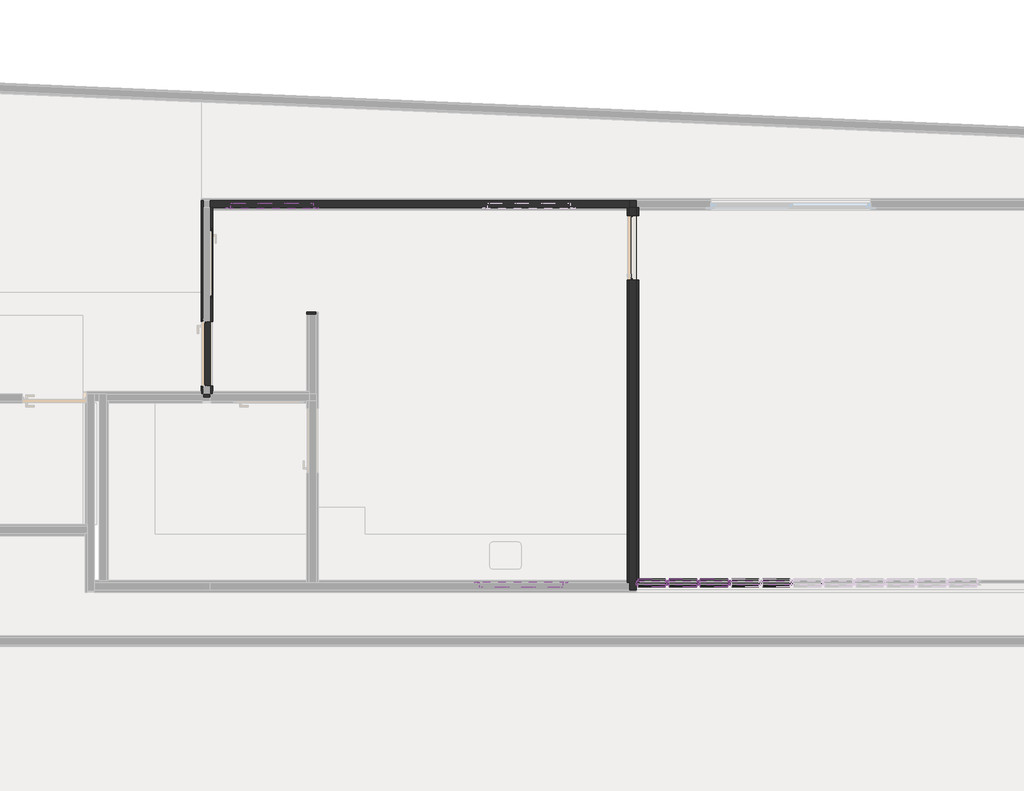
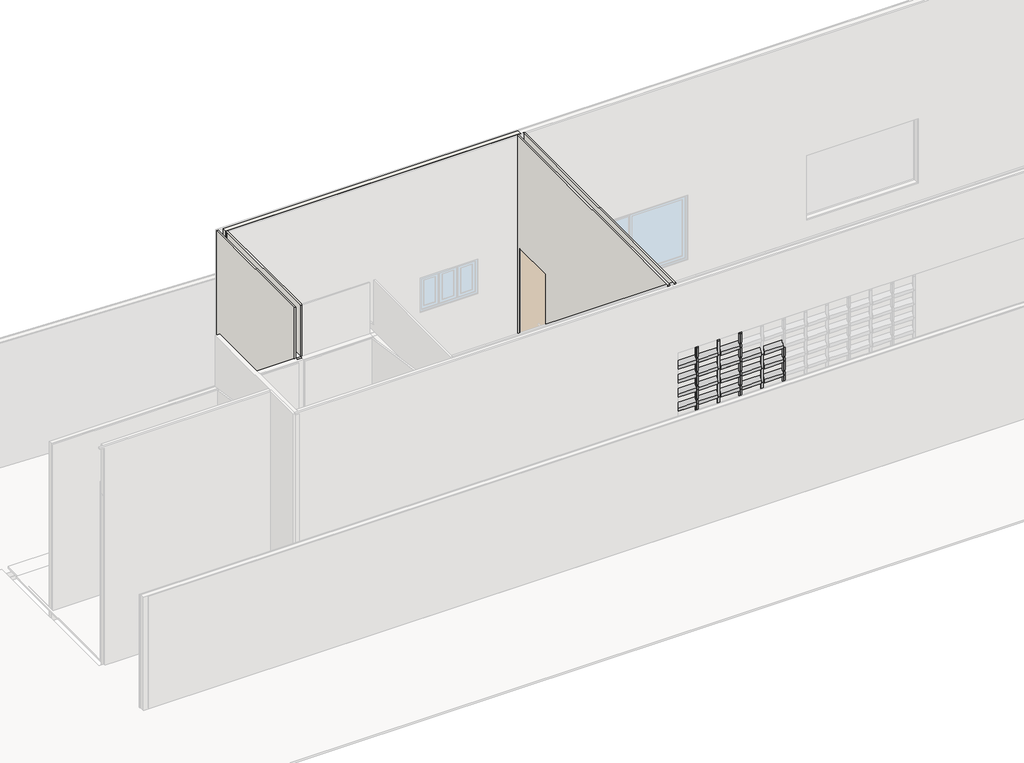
# One storey, part 21 of 28: 97 members, 9 walls, 2 windows.
"""IFC4 building model written with IfcOpenShell, lengths in millimetres."""

from ifc_helpers import new_model, si_unit, origin, place, context, project, spatial, faceted_brep, transform, mapped, element, save
from components import montante_retangular_02d07947, montante_retangular_70ba8f4d, montante_retangular_b3938234, montante_retangular_d2e0df8b, montante_retangular_ace9eee9, montante_retangular_c959cb71, montante_retangular_79dc672e, montante_retangular_289212d8, montante_retangular_16e63d6c, window_1x60_2e2a47e2

model = new_model("IFC4")

# Units and contexts
model_context = context("Model", 3, world=origin())
ifc_project = project(units=[si_unit("LENGTHUNIT", "METRE", prefix="MILLI")], contexts=[model_context])

# Site, building, storey
site = spatial("IfcSite", under=ifc_project)
building = spatial("IfcBuilding", under=site)
storey = spatial("IfcBuildingStorey", under=building, Name="Térreo", Elevation=0.0)

# Members
placement = place(None, origin())
montante_retangular_shape = montante_retangular_02d07947(model_context)
element("IfcMember", 1, ObjectType="Montante retangular : FDE_MontanteVenezianaIndustrial_Intermediário_Ref50 (Alumínio Anodizado)", at=placement, inside=storey, context=model_context, shape_type="MappedRepresentation", body=[
    mapped(montante_retangular_shape, transform((-44847.1052629, 48589.0879102, 925.0), x_axis=(1.0, 0.0, 0.0), y_axis=(0.0, -1.0, 0.0), z_axis=(0.0, 0.0, -1.0))),
])
element("IfcMember", 2, ObjectType="Montante retangular : FDE_MontanteVenezianaIndustrial_Intermediário_Ref50 (Alumínio Anodizado)", at=placement, inside=storey, context=model_context, shape_type="MappedRepresentation", body=[
    mapped(montante_retangular_shape, transform((-44444.2105261, 48589.0879102, 925.0), x_axis=(1.0, 0.0, 0.0), y_axis=(0.0, -1.0, 0.0), z_axis=(0.0, 0.0, -1.0))),
])
element("IfcMember", 3, ObjectType="Montante retangular : FDE_MontanteVenezianaIndustrial_Intermediário_Ref50 (Alumínio Anodizado)", at=placement, inside=storey, context=model_context, shape_type="MappedRepresentation", body=[
    mapped(montante_retangular_shape, transform((-44041.3157893, 48589.0879102, 925.0), x_axis=(1.0, 0.0, 0.0), y_axis=(0.0, -1.0, 0.0), z_axis=(0.0, 0.0, -1.0))),
])
element("IfcMember", 4, ObjectType="Montante retangular : FDE_MontanteVenezianaIndustrial_Intermediário_Ref50 (Alumínio Anodizado)", at=placement, inside=storey, context=model_context, shape_type="MappedRepresentation", body=[
    mapped(montante_retangular_shape, transform((-43638.4210525, 48589.0879102, 925.0), x_axis=(1.0, 0.0, 0.0), y_axis=(0.0, -1.0, 0.0), z_axis=(0.0, 0.0, -1.0))),
])
element("IfcMember", 5, ObjectType="Montante retangular : FDE_MontanteVenezianaIndustrial_Intermediário_Ref50 (Alumínio Anodizado)", at=placement, inside=storey, context=model_context, shape_type="MappedRepresentation", body=[
    mapped(montante_retangular_shape, transform((-43235.5263156, 48589.0879102, 925.0), x_axis=(1.0, 0.0, 0.0), y_axis=(0.0, -1.0, 0.0), z_axis=(0.0, 0.0, -1.0))),
])
montante_retangular_2_shape = montante_retangular_70ba8f4d(model_context)
element("IfcMember", 6, ObjectType="Montante retangular : FDE_MontanteVenezianaIndustrial_Intermediário_Ref50 (Alumínio Anodizado)", at=placement, inside=storey, context=model_context, shape_type="MappedRepresentation", body=[
    mapped(montante_retangular_2_shape, transform((-44847.1052629, 48589.0879102, 1174.0), x_axis=(1.0, 0.0, 0.0), y_axis=(0.0, -1.0, 0.0), z_axis=(0.0, 0.0, -1.0))),
])
element("IfcMember", 7, ObjectType="Montante retangular : FDE_MontanteVenezianaIndustrial_Intermediário_Ref50 (Alumínio Anodizado)", at=placement, inside=storey, context=model_context, shape_type="MappedRepresentation", body=[
    mapped(montante_retangular_2_shape, transform((-44444.2105261, 48589.0879102, 1174.0), x_axis=(1.0, 0.0, 0.0), y_axis=(0.0, -1.0, 0.0), z_axis=(0.0, 0.0, -1.0))),
])
element("IfcMember", 8, ObjectType="Montante retangular : FDE_MontanteVenezianaIndustrial_Intermediário_Ref50 (Alumínio Anodizado)", at=placement, inside=storey, context=model_context, shape_type="MappedRepresentation", body=[
    mapped(montante_retangular_2_shape, transform((-44041.3157893, 48589.0879102, 1174.0), x_axis=(1.0, 0.0, 0.0), y_axis=(0.0, -1.0, 0.0), z_axis=(0.0, 0.0, -1.0))),
])
element("IfcMember", 9, ObjectType="Montante retangular : FDE_MontanteVenezianaIndustrial_Intermediário_Ref50 (Alumínio Anodizado)", at=placement, inside=storey, context=model_context, shape_type="MappedRepresentation", body=[
    mapped(montante_retangular_2_shape, transform((-43638.4210525, 48589.0879102, 1174.0), x_axis=(1.0, 0.0, 0.0), y_axis=(0.0, -1.0, 0.0), z_axis=(0.0, 0.0, -1.0))),
])
element("IfcMember", 10, ObjectType="Montante retangular : FDE_MontanteVenezianaIndustrial_Intermediário_Ref50 (Alumínio Anodizado)", at=placement, inside=storey, context=model_context, shape_type="MappedRepresentation", body=[
    mapped(montante_retangular_2_shape, transform((-43235.5263156, 48589.0879102, 1174.0), x_axis=(1.0, 0.0, 0.0), y_axis=(0.0, -1.0, 0.0), z_axis=(0.0, 0.0, -1.0))),
])
element("IfcMember", 11, ObjectType="Montante retangular : FDE_MontanteVenezianaIndustrial_Intermediário_Ref50 (Alumínio Anodizado)", at=placement, inside=storey, context=model_context, shape_type="MappedRepresentation", body=[
    mapped(montante_retangular_2_shape, transform((-44847.1052629, 48589.0879102, 1448.0), x_axis=(1.0, 0.0, 0.0), y_axis=(0.0, -1.0, 0.0), z_axis=(0.0, 0.0, -1.0))),
])
element("IfcMember", 12, ObjectType="Montante retangular : FDE_MontanteVenezianaIndustrial_Intermediário_Ref50 (Alumínio Anodizado)", at=placement, inside=storey, context=model_context, shape_type="MappedRepresentation", body=[
    mapped(montante_retangular_2_shape, transform((-44444.2105261, 48589.0879102, 1448.0), x_axis=(1.0, 0.0, 0.0), y_axis=(0.0, -1.0, 0.0), z_axis=(0.0, 0.0, -1.0))),
])
element("IfcMember", 13, ObjectType="Montante retangular : FDE_MontanteVenezianaIndustrial_Intermediário_Ref50 (Alumínio Anodizado)", at=placement, inside=storey, context=model_context, shape_type="MappedRepresentation", body=[
    mapped(montante_retangular_2_shape, transform((-44041.3157893, 48589.0879102, 1448.0), x_axis=(1.0, 0.0, 0.0), y_axis=(0.0, -1.0, 0.0), z_axis=(0.0, 0.0, -1.0))),
])
element("IfcMember", 14, ObjectType="Montante retangular : FDE_MontanteVenezianaIndustrial_Intermediário_Ref50 (Alumínio Anodizado)", at=placement, inside=storey, context=model_context, shape_type="MappedRepresentation", body=[
    mapped(montante_retangular_2_shape, transform((-43638.4210525, 48589.0879102, 1448.0), x_axis=(1.0, 0.0, 0.0), y_axis=(0.0, -1.0, 0.0), z_axis=(0.0, 0.0, -1.0))),
])
element("IfcMember", 15, ObjectType="Montante retangular : FDE_MontanteVenezianaIndustrial_Intermediário_Ref50 (Alumínio Anodizado)", at=placement, inside=storey, context=model_context, shape_type="MappedRepresentation", body=[
    mapped(montante_retangular_2_shape, transform((-43235.5263156, 48589.0879102, 1448.0), x_axis=(1.0, 0.0, 0.0), y_axis=(0.0, -1.0, 0.0), z_axis=(0.0, 0.0, -1.0))),
])
element("IfcMember", 16, ObjectType="Montante retangular : FDE_MontanteVenezianaIndustrial_Intermediário_Ref50 (Alumínio Anodizado)", at=placement, inside=storey, context=model_context, shape_type="MappedRepresentation", body=[
    mapped(montante_retangular_2_shape, transform((-44847.1052629, 48589.0879102, 1722.0), x_axis=(1.0, 0.0, 0.0), y_axis=(0.0, -1.0, 0.0), z_axis=(0.0, 0.0, -1.0))),
])
element("IfcMember", 17, ObjectType="Montante retangular : FDE_MontanteVenezianaIndustrial_Intermediário_Ref50 (Alumínio Anodizado)", at=placement, inside=storey, context=model_context, shape_type="MappedRepresentation", body=[
    mapped(montante_retangular_2_shape, transform((-44444.2105261, 48589.0879102, 1722.0), x_axis=(1.0, 0.0, 0.0), y_axis=(0.0, -1.0, 0.0), z_axis=(0.0, 0.0, -1.0))),
])
element("IfcMember", 18, ObjectType="Montante retangular : FDE_MontanteVenezianaIndustrial_Intermediário_Ref50 (Alumínio Anodizado)", at=placement, inside=storey, context=model_context, shape_type="MappedRepresentation", body=[
    mapped(montante_retangular_2_shape, transform((-44041.3157893, 48589.0879102, 1722.0), x_axis=(1.0, 0.0, 0.0), y_axis=(0.0, -1.0, 0.0), z_axis=(0.0, 0.0, -1.0))),
])
element("IfcMember", 19, ObjectType="Montante retangular : FDE_MontanteVenezianaIndustrial_Intermediário_Ref50 (Alumínio Anodizado)", at=placement, inside=storey, context=model_context, shape_type="MappedRepresentation", body=[
    mapped(montante_retangular_2_shape, transform((-43638.4210525, 48589.0879102, 1722.0), x_axis=(1.0, 0.0, 0.0), y_axis=(0.0, -1.0, 0.0), z_axis=(0.0, 0.0, -1.0))),
])
element("IfcMember", 20, ObjectType="Montante retangular : FDE_MontanteVenezianaIndustrial_Intermediário_Ref50 (Alumínio Anodizado)", at=placement, inside=storey, context=model_context, shape_type="MappedRepresentation", body=[
    mapped(montante_retangular_2_shape, transform((-43235.5263156, 48589.0879102, 1722.0), x_axis=(1.0, 0.0, 0.0), y_axis=(0.0, -1.0, 0.0), z_axis=(0.0, 0.0, -1.0))),
])
element("IfcMember", 21, ObjectType="Montante retangular : FDE_MontanteVenezianaIndustrial_Intermediário_Ref50 (Alumínio Anodizado)", at=placement, inside=storey, context=model_context, shape_type="MappedRepresentation", body=[
    mapped(montante_retangular_2_shape, transform((-44847.1052629, 48589.0879102, 1996.0), x_axis=(1.0, 0.0, 0.0), y_axis=(0.0, -1.0, 0.0), z_axis=(0.0, 0.0, -1.0))),
])
element("IfcMember", 22, ObjectType="Montante retangular : FDE_MontanteVenezianaIndustrial_Intermediário_Ref50 (Alumínio Anodizado)", at=placement, inside=storey, context=model_context, shape_type="MappedRepresentation", body=[
    mapped(montante_retangular_2_shape, transform((-44444.2105261, 48589.0879102, 1996.0), x_axis=(1.0, 0.0, 0.0), y_axis=(0.0, -1.0, 0.0), z_axis=(0.0, 0.0, -1.0))),
])
element("IfcMember", 23, ObjectType="Montante retangular : FDE_MontanteVenezianaIndustrial_Intermediário_Ref50 (Alumínio Anodizado)", at=placement, inside=storey, context=model_context, shape_type="MappedRepresentation", body=[
    mapped(montante_retangular_2_shape, transform((-44041.3157893, 48589.0879102, 1996.0), x_axis=(1.0, 0.0, 0.0), y_axis=(0.0, -1.0, 0.0), z_axis=(0.0, 0.0, -1.0))),
])
element("IfcMember", 24, ObjectType="Montante retangular : FDE_MontanteVenezianaIndustrial_Intermediário_Ref50 (Alumínio Anodizado)", at=placement, inside=storey, context=model_context, shape_type="MappedRepresentation", body=[
    mapped(montante_retangular_2_shape, transform((-43638.4210525, 48589.0879102, 1996.0), x_axis=(1.0, 0.0, 0.0), y_axis=(0.0, -1.0, 0.0), z_axis=(0.0, 0.0, -1.0))),
])
element("IfcMember", 25, ObjectType="Montante retangular : FDE_MontanteVenezianaIndustrial_Intermediário_Ref50 (Alumínio Anodizado)", at=placement, inside=storey, context=model_context, shape_type="MappedRepresentation", body=[
    mapped(montante_retangular_2_shape, transform((-43235.5263156, 48589.0879102, 1996.0), x_axis=(1.0, 0.0, 0.0), y_axis=(0.0, -1.0, 0.0), z_axis=(0.0, 0.0, -1.0))),
])
element("IfcMember", 26, ObjectType="Montante retangular : FDE_MontanteVenezianaIndustrial_Intermediário_Ref50 (Alumínio Anodizado)", at=placement, inside=storey, context=model_context, shape_type="MappedRepresentation", body=[
    mapped(montante_retangular_2_shape, transform((-44847.1052629, 48589.0879102, 2270.0), x_axis=(1.0, 0.0, 0.0), y_axis=(0.0, -1.0, 0.0), z_axis=(0.0, 0.0, -1.0))),
])
element("IfcMember", 27, ObjectType="Montante retangular : FDE_MontanteVenezianaIndustrial_Intermediário_Ref50 (Alumínio Anodizado)", at=placement, inside=storey, context=model_context, shape_type="MappedRepresentation", body=[
    mapped(montante_retangular_2_shape, transform((-44444.2105261, 48589.0879102, 2270.0), x_axis=(1.0, 0.0, 0.0), y_axis=(0.0, -1.0, 0.0), z_axis=(0.0, 0.0, -1.0))),
])
element("IfcMember", 28, ObjectType="Montante retangular : FDE_MontanteVenezianaIndustrial_Intermediário_Ref50 (Alumínio Anodizado)", at=placement, inside=storey, context=model_context, shape_type="MappedRepresentation", body=[
    mapped(montante_retangular_2_shape, transform((-44041.3157893, 48589.0879102, 2270.0), x_axis=(1.0, 0.0, 0.0), y_axis=(0.0, -1.0, 0.0), z_axis=(0.0, 0.0, -1.0))),
])
element("IfcMember", 29, ObjectType="Montante retangular : FDE_MontanteVenezianaIndustrial_Intermediário_Ref50 (Alumínio Anodizado)", at=placement, inside=storey, context=model_context, shape_type="MappedRepresentation", body=[
    mapped(montante_retangular_2_shape, transform((-43638.4210525, 48589.0879102, 2270.0), x_axis=(1.0, 0.0, 0.0), y_axis=(0.0, -1.0, 0.0), z_axis=(0.0, 0.0, -1.0))),
])
element("IfcMember", 30, ObjectType="Montante retangular : FDE_MontanteVenezianaIndustrial_Intermediário_Ref50 (Alumínio Anodizado)", at=placement, inside=storey, context=model_context, shape_type="MappedRepresentation", body=[
    mapped(montante_retangular_2_shape, transform((-43235.5263156, 48589.0879102, 2270.0), x_axis=(1.0, 0.0, 0.0), y_axis=(0.0, -1.0, 0.0), z_axis=(0.0, 0.0, -1.0))),
])
element("IfcMember", 31, ObjectType="Montante retangular : FDE_MontanteVenezianaIndustrial_Intermediário_Ref50 (Alumínio Anodizado)", at=placement, inside=storey, context=model_context, shape_type="MappedRepresentation", body=[
    mapped(montante_retangular_2_shape, transform((-44847.1052629, 48589.0879102, 2544.0), x_axis=(1.0, 0.0, 0.0), y_axis=(0.0, -1.0, 0.0), z_axis=(0.0, 0.0, -1.0))),
])
element("IfcMember", 32, ObjectType="Montante retangular : FDE_MontanteVenezianaIndustrial_Intermediário_Ref50 (Alumínio Anodizado)", at=placement, inside=storey, context=model_context, shape_type="MappedRepresentation", body=[
    mapped(montante_retangular_2_shape, transform((-44444.2105261, 48589.0879102, 2544.0), x_axis=(1.0, 0.0, 0.0), y_axis=(0.0, -1.0, 0.0), z_axis=(0.0, 0.0, -1.0))),
])
element("IfcMember", 33, ObjectType="Montante retangular : FDE_MontanteVenezianaIndustrial_Intermediário_Ref50 (Alumínio Anodizado)", at=placement, inside=storey, context=model_context, shape_type="MappedRepresentation", body=[
    mapped(montante_retangular_2_shape, transform((-44041.3157893, 48589.0879102, 2544.0), x_axis=(1.0, 0.0, 0.0), y_axis=(0.0, -1.0, 0.0), z_axis=(0.0, 0.0, -1.0))),
])
element("IfcMember", 34, ObjectType="Montante retangular : FDE_MontanteVenezianaIndustrial_Intermediário_Ref50 (Alumínio Anodizado)", at=placement, inside=storey, context=model_context, shape_type="MappedRepresentation", body=[
    mapped(montante_retangular_2_shape, transform((-44847.1052629, 48589.0879102, 2818.0), x_axis=(1.0, 0.0, 0.0), y_axis=(0.0, -1.0, 0.0), z_axis=(0.0, 0.0, -1.0))),
])
element("IfcMember", 35, ObjectType="Montante retangular : FDE_MontanteVenezianaIndustrial_Intermediário_Ref50 (Alumínio Anodizado)", at=placement, inside=storey, context=model_context, shape_type="MappedRepresentation", body=[
    mapped(montante_retangular_2_shape, transform((-44444.2105261, 48589.0879102, 2818.0), x_axis=(1.0, 0.0, 0.0), y_axis=(0.0, -1.0, 0.0), z_axis=(0.0, 0.0, -1.0))),
])
element("IfcMember", 36, ObjectType="Montante retangular : FDE_MontanteVenezianaIndustrial_Intermediário_Ref50 (Alumínio Anodizado)", at=placement, inside=storey, context=model_context, shape_type="MappedRepresentation", body=[
    mapped(montante_retangular_2_shape, transform((-44041.3157893, 48589.0879102, 2818.0), x_axis=(1.0, 0.0, 0.0), y_axis=(0.0, -1.0, 0.0), z_axis=(0.0, 0.0, -1.0))),
])
montante_retangular_3_shape = montante_retangular_b3938234(model_context)
element("IfcMember", 37, ObjectType="Montante retangular : FDE_MontanteVenezianaIndustrial_BordaOpção1_Ref50 (Alumínio Anodizado)", at=placement, inside=storey, context=model_context, shape_type="MappedRepresentation", body=[
    mapped(montante_retangular_3_shape, transform((-45250.0, 48589.0879102, 1174.0), x_axis=(-1.0, 0.0, 0.0), y_axis=(0.0, -1.0, 0.0), z_axis=(0.0, 0.0, 1.0))),
])
montante_retangular_4_shape = montante_retangular_d2e0df8b(model_context)
element("IfcMember", 38, ObjectType="Montante retangular : FDE_MontanteVenezianaIndustrial_BordaOpção1_Ref50 (Alumínio Anodizado)", at=placement, inside=storey, context=model_context, shape_type="MappedRepresentation", body=[
    mapped(montante_retangular_4_shape, transform((-45250.0, 48589.0879102, 1448.0), x_axis=(-1.0, 0.0, 0.0), y_axis=(0.0, -1.0, 0.0), z_axis=(0.0, 0.0, 1.0))),
])
element("IfcMember", 39, ObjectType="Montante retangular : FDE_MontanteVenezianaIndustrial_BordaOpção1_Ref50 (Alumínio Anodizado)", at=placement, inside=storey, context=model_context, shape_type="MappedRepresentation", body=[
    mapped(montante_retangular_4_shape, transform((-45250.0, 48589.0879102, 1722.0), x_axis=(-1.0, 0.0, 0.0), y_axis=(0.0, -1.0, 0.0), z_axis=(0.0, 0.0, 1.0))),
])
element("IfcMember", 40, ObjectType="Montante retangular : FDE_MontanteVenezianaIndustrial_BordaOpção1_Ref50 (Alumínio Anodizado)", at=placement, inside=storey, context=model_context, shape_type="MappedRepresentation", body=[
    mapped(montante_retangular_4_shape, transform((-45250.0, 48589.0879102, 1996.0), x_axis=(-1.0, 0.0, 0.0), y_axis=(0.0, -1.0, 0.0), z_axis=(0.0, 0.0, 1.0))),
])
element("IfcMember", 41, ObjectType="Montante retangular : FDE_MontanteVenezianaIndustrial_BordaOpção1_Ref50 (Alumínio Anodizado)", at=placement, inside=storey, context=model_context, shape_type="MappedRepresentation", body=[
    mapped(montante_retangular_4_shape, transform((-45250.0, 48589.0879102, 2270.0), x_axis=(-1.0, 0.0, 0.0), y_axis=(0.0, -1.0, 0.0), z_axis=(0.0, 0.0, 1.0))),
])
element("IfcMember", 42, ObjectType="Montante retangular : FDE_MontanteVenezianaIndustrial_BordaOpção1_Ref50 (Alumínio Anodizado)", at=placement, inside=storey, context=model_context, shape_type="MappedRepresentation", body=[
    mapped(montante_retangular_4_shape, transform((-45250.0, 48589.0879102, 2544.0), x_axis=(-1.0, 0.0, 0.0), y_axis=(0.0, -1.0, 0.0), z_axis=(0.0, 0.0, 1.0))),
])
element("IfcMember", 43, ObjectType="Montante retangular : FDE_MontanteVenezianaIndustrial_BordaOpção1_Ref50 (Alumínio Anodizado)", at=placement, inside=storey, context=model_context, shape_type="MappedRepresentation", body=[
    mapped(montante_retangular_4_shape, transform((-45250.0, 48589.0879102, 2818.0), x_axis=(-1.0, 0.0, 0.0), y_axis=(0.0, -1.0, 0.0), z_axis=(0.0, 0.0, 1.0))),
])
element("IfcMember", 44, ObjectType="Montante retangular : FDE_MontanteVenezianaIndustrial_BordaOpção1_Ref50 (Alumínio Anodizado)", at=placement, inside=storey, context=model_context, shape_type="MappedRepresentation", body=[
    mapped(montante_retangular_4_shape, transform((-45250.0, 48589.0879102, 3092.0), x_axis=(-1.0, 0.0, 0.0), y_axis=(0.0, -1.0, 0.0), z_axis=(0.0, 0.0, 1.0))),
])
montante_retangular_5_shape = montante_retangular_ace9eee9(model_context)
element("IfcMember", 45, ObjectType="Montante retangular : FDE_MontanteVenezianaIndustrial_Intermediário_Ref50 (Alumínio Anodizado)", at=placement, inside=storey, context=model_context, shape_type="MappedRepresentation", body=[
    mapped(montante_retangular_5_shape, transform((-44847.1052629, 48589.0879102, 3092.0), x_axis=(1.0, 0.0, 0.0), y_axis=(0.0, -1.0, 0.0), z_axis=(0.0, 0.0, -1.0))),
])
element("IfcMember", 46, ObjectType="Montante retangular : FDE_MontanteVenezianaIndustrial_Intermediário_Ref50 (Alumínio Anodizado)", at=placement, inside=storey, context=model_context, shape_type="MappedRepresentation", body=[
    mapped(montante_retangular_5_shape, transform((-44444.2105261, 48589.0879102, 3092.0), x_axis=(1.0, 0.0, 0.0), y_axis=(0.0, -1.0, 0.0), z_axis=(0.0, 0.0, -1.0))),
])
element("IfcMember", 47, ObjectType="Montante retangular : FDE_MontanteVenezianaIndustrial_Intermediário_Ref50 (Alumínio Anodizado)", at=placement, inside=storey, context=model_context, shape_type="MappedRepresentation", body=[
    mapped(montante_retangular_5_shape, transform((-44041.3157893, 48589.0879102, 3092.0), x_axis=(1.0, 0.0, 0.0), y_axis=(0.0, -1.0, 0.0), z_axis=(0.0, 0.0, -1.0))),
])
montante_retangular_6_shape = montante_retangular_c959cb71(model_context)
element("IfcMember", 48, ObjectType="Montante retangular : FDE_MontanteVenezianaIndustrial_BordaOpção1_Ref50 (Alumínio Anodizado)", at=placement, inside=storey, context=model_context, shape_type="MappedRepresentation", body=[
    mapped(montante_retangular_6_shape, transform((-45250.0, 48589.0879102, 3175.0), x_axis=(-1.0, 0.0, 0.0), y_axis=(0.0, -1.0, 0.0), z_axis=(0.0, 0.0, 1.0))),
])
montante_retangular_7_shape = montante_retangular_79dc672e(model_context)
element("IfcMember", 49, ObjectType="Montante retangular : FDE_MontanteVenezianaIndustrial_BordaOpção2_Ref50 (Alumínio Anodizado)", at=placement, inside=storey, context=model_context, shape_type="MappedRepresentation", body=[
    mapped(montante_retangular_7_shape, transform((-44847.1052629, 48589.0879102, 3200.0), x_axis=(0.0, 0.0, 1.0), y_axis=(0.0, -1.0, 0.0), z_axis=(1.0, 0.0, 0.0))),
])
montante_retangular_8_shape = montante_retangular_289212d8(model_context)
element("IfcMember", 50, ObjectType="Montante retangular : FDE_MontanteVenezianaIndustrial_BordaOpção2_Ref50 (Alumínio Anodizado)", at=placement, inside=storey, context=model_context, shape_type="MappedRepresentation", body=[
    mapped(montante_retangular_8_shape, transform((-44444.2105261, 48589.0879102, 3200.0), x_axis=(0.0, 0.0, 1.0), y_axis=(0.0, -1.0, 0.0), z_axis=(1.0, 0.0, 0.0))),
])
element("IfcMember", 51, ObjectType="Montante retangular : FDE_MontanteVenezianaIndustrial_BordaOpção2_Ref50 (Alumínio Anodizado)", at=placement, inside=storey, context=model_context, shape_type="MappedRepresentation", body=[
    mapped(montante_retangular_8_shape, transform((-44041.3157893, 48589.0879102, 3200.0), x_axis=(0.0, 0.0, 1.0), y_axis=(0.0, -1.0, 0.0), z_axis=(1.0, 0.0, 0.0))),
])
element("IfcMember", 52, ObjectType="Montante retangular : FDE_MontanteVenezianaIndustrial_BordaOpção2_Ref50 (Alumínio Anodizado)", at=placement, inside=storey, context=model_context, shape_type="MappedRepresentation", body=[
    mapped(montante_retangular_8_shape, transform((-43638.4210525, 48589.0879102, 3200.0), x_axis=(0.0, 0.0, 1.0), y_axis=(0.0, -1.0, 0.0), z_axis=(1.0, 0.0, 0.0))),
])
element("IfcMember", 53, ObjectType="Montante retangular : FDE_MontanteVenezianaIndustrial_BordaOpção2_Ref50 (Alumínio Anodizado)", at=placement, inside=storey, context=model_context, shape_type="MappedRepresentation", body=[
    mapped(montante_retangular_8_shape, transform((-43235.5263156, 48589.0879102, 3200.0), x_axis=(0.0, 0.0, 1.0), y_axis=(0.0, -1.0, 0.0), z_axis=(1.0, 0.0, 0.0))),
])
element("IfcMember", 54, ObjectType="Montante retangular : FDE_MontanteVenezianaIndustrial_BordaOpção1_Ref50 (Alumínio Anodizado)", at=placement, inside=storey, context=model_context, shape_type="MappedRepresentation", body=[
    mapped(montante_retangular_7_shape, transform((-45250.0, 48589.0879102, 900.0), x_axis=(0.0, 0.0, -1.0), y_axis=(0.0, -1.0, 0.0), z_axis=(-1.0, 0.0, 0.0))),
])
element("IfcMember", 55, ObjectType="Montante retangular : FDE_MontanteVenezianaIndustrial_BordaOpção1_Ref50 (Alumínio Anodizado)", at=placement, inside=storey, context=model_context, shape_type="MappedRepresentation", body=[
    mapped(montante_retangular_8_shape, transform((-44847.1052629, 48589.0879102, 900.0), x_axis=(0.0, 0.0, -1.0), y_axis=(0.0, -1.0, 0.0), z_axis=(-1.0, 0.0, 0.0))),
])
element("IfcMember", 56, ObjectType="Montante retangular : FDE_MontanteVenezianaIndustrial_BordaOpção1_Ref50 (Alumínio Anodizado)", at=placement, inside=storey, context=model_context, shape_type="MappedRepresentation", body=[
    mapped(montante_retangular_8_shape, transform((-44444.2105261, 48589.0879102, 900.0), x_axis=(0.0, 0.0, -1.0), y_axis=(0.0, -1.0, 0.0), z_axis=(-1.0, 0.0, 0.0))),
])
element("IfcMember", 57, ObjectType="Montante retangular : FDE_MontanteVenezianaIndustrial_BordaOpção1_Ref50 (Alumínio Anodizado)", at=placement, inside=storey, context=model_context, shape_type="MappedRepresentation", body=[
    mapped(montante_retangular_8_shape, transform((-44041.3157893, 48589.0879102, 900.0), x_axis=(0.0, 0.0, -1.0), y_axis=(0.0, -1.0, 0.0), z_axis=(-1.0, 0.0, 0.0))),
])
element("IfcMember", 58, ObjectType="Montante retangular : FDE_MontanteVenezianaIndustrial_BordaOpção1_Ref50 (Alumínio Anodizado)", at=placement, inside=storey, context=model_context, shape_type="MappedRepresentation", body=[
    mapped(montante_retangular_8_shape, transform((-43638.4210525, 48589.0879102, 900.0), x_axis=(0.0, 0.0, -1.0), y_axis=(0.0, -1.0, 0.0), z_axis=(-1.0, 0.0, 0.0))),
])
element("IfcMember", 59, ObjectType="Montante retangular : FDE_MontanteVenezianaIndustrial_BordaOpção1_Ref50 (Alumínio Anodizado)", at=placement, inside=storey, context=model_context, shape_type="MappedRepresentation", body=[
    mapped(montante_retangular_8_shape, transform((-43235.5263156, 48589.0879102, 900.0), x_axis=(0.0, 0.0, -1.0), y_axis=(0.0, -1.0, 0.0), z_axis=(-1.0, 0.0, 0.0))),
])
montante_retangular_9_shape = montante_retangular_16e63d6c(model_context)
element("IfcMember", 60, ObjectType="Montante retangular : FDE_AletaVenezianaIndustrial_Ref100 (Alumínio Anodizado)", at=placement, inside=storey, context=model_context, shape_type="MappedRepresentation", body=[
    mapped(montante_retangular_9_shape, transform((-44872.1052629, 48589.0879102, 1174.0), x_axis=(0.0, 0.0, 1.0), y_axis=(0.0, -1.0, 0.0), z_axis=(1.0, 0.0, 0.0))),
])
element("IfcMember", 61, ObjectType="Montante retangular : FDE_AletaVenezianaIndustrial_Ref100 (Alumínio Anodizado)", at=placement, inside=storey, context=model_context, shape_type="MappedRepresentation", body=[
    mapped(montante_retangular_9_shape, transform((-44469.2105261, 48589.0879102, 1174.0), x_axis=(0.0, 0.0, 1.0), y_axis=(0.0, -1.0, 0.0), z_axis=(1.0, 0.0, 0.0))),
])
element("IfcMember", 62, ObjectType="Montante retangular : FDE_AletaVenezianaIndustrial_Ref100 (Alumínio Anodizado)", at=placement, inside=storey, context=model_context, shape_type="MappedRepresentation", body=[
    mapped(montante_retangular_9_shape, transform((-44066.3157893, 48589.0879102, 1174.0), x_axis=(0.0, 0.0, 1.0), y_axis=(0.0, -1.0, 0.0), z_axis=(1.0, 0.0, 0.0))),
])
element("IfcMember", 63, ObjectType="Montante retangular : FDE_AletaVenezianaIndustrial_Ref100 (Alumínio Anodizado)", at=placement, inside=storey, context=model_context, shape_type="MappedRepresentation", body=[
    mapped(montante_retangular_9_shape, transform((-43663.4210525, 48589.0879102, 1174.0), x_axis=(0.0, 0.0, 1.0), y_axis=(0.0, -1.0, 0.0), z_axis=(1.0, 0.0, 0.0))),
])
element("IfcMember", 64, ObjectType="Montante retangular : FDE_AletaVenezianaIndustrial_Ref100 (Alumínio Anodizado)", at=placement, inside=storey, context=model_context, shape_type="MappedRepresentation", body=[
    mapped(montante_retangular_9_shape, transform((-43260.5263156, 48589.0879102, 1174.0), x_axis=(0.0, 0.0, 1.0), y_axis=(0.0, -1.0, 0.0), z_axis=(1.0, 0.0, 0.0))),
])
element("IfcMember", 65, ObjectType="Montante retangular : FDE_AletaVenezianaIndustrial_Ref100 (Alumínio Anodizado)", at=placement, inside=storey, context=model_context, shape_type="MappedRepresentation", body=[
    mapped(montante_retangular_9_shape, transform((-44872.1052629, 48589.0879102, 1448.0), x_axis=(0.0, 0.0, 1.0), y_axis=(0.0, -1.0, 0.0), z_axis=(1.0, 0.0, 0.0))),
])
element("IfcMember", 66, ObjectType="Montante retangular : FDE_AletaVenezianaIndustrial_Ref100 (Alumínio Anodizado)", at=placement, inside=storey, context=model_context, shape_type="MappedRepresentation", body=[
    mapped(montante_retangular_9_shape, transform((-44469.2105261, 48589.0879102, 1448.0), x_axis=(0.0, 0.0, 1.0), y_axis=(0.0, -1.0, 0.0), z_axis=(1.0, 0.0, 0.0))),
])
element("IfcMember", 67, ObjectType="Montante retangular : FDE_AletaVenezianaIndustrial_Ref100 (Alumínio Anodizado)", at=placement, inside=storey, context=model_context, shape_type="MappedRepresentation", body=[
    mapped(montante_retangular_9_shape, transform((-44066.3157893, 48589.0879102, 1448.0), x_axis=(0.0, 0.0, 1.0), y_axis=(0.0, -1.0, 0.0), z_axis=(1.0, 0.0, 0.0))),
])
element("IfcMember", 68, ObjectType="Montante retangular : FDE_AletaVenezianaIndustrial_Ref100 (Alumínio Anodizado)", at=placement, inside=storey, context=model_context, shape_type="MappedRepresentation", body=[
    mapped(montante_retangular_9_shape, transform((-43663.4210525, 48589.0879102, 1448.0), x_axis=(0.0, 0.0, 1.0), y_axis=(0.0, -1.0, 0.0), z_axis=(1.0, 0.0, 0.0))),
])
element("IfcMember", 69, ObjectType="Montante retangular : FDE_AletaVenezianaIndustrial_Ref100 (Alumínio Anodizado)", at=placement, inside=storey, context=model_context, shape_type="MappedRepresentation", body=[
    mapped(montante_retangular_9_shape, transform((-43260.5263156, 48589.0879102, 1448.0), x_axis=(0.0, 0.0, 1.0), y_axis=(0.0, -1.0, 0.0), z_axis=(1.0, 0.0, 0.0))),
])
element("IfcMember", 70, ObjectType="Montante retangular : FDE_AletaVenezianaIndustrial_Ref100 (Alumínio Anodizado)", at=placement, inside=storey, context=model_context, shape_type="MappedRepresentation", body=[
    mapped(montante_retangular_9_shape, transform((-44872.1052629, 48589.0879102, 1722.0), x_axis=(0.0, 0.0, 1.0), y_axis=(0.0, -1.0, 0.0), z_axis=(1.0, 0.0, 0.0))),
])
element("IfcMember", 71, ObjectType="Montante retangular : FDE_AletaVenezianaIndustrial_Ref100 (Alumínio Anodizado)", at=placement, inside=storey, context=model_context, shape_type="MappedRepresentation", body=[
    mapped(montante_retangular_9_shape, transform((-44469.2105261, 48589.0879102, 1722.0), x_axis=(0.0, 0.0, 1.0), y_axis=(0.0, -1.0, 0.0), z_axis=(1.0, 0.0, 0.0))),
])
element("IfcMember", 72, ObjectType="Montante retangular : FDE_AletaVenezianaIndustrial_Ref100 (Alumínio Anodizado)", at=placement, inside=storey, context=model_context, shape_type="MappedRepresentation", body=[
    mapped(montante_retangular_9_shape, transform((-44066.3157893, 48589.0879102, 1722.0), x_axis=(0.0, 0.0, 1.0), y_axis=(0.0, -1.0, 0.0), z_axis=(1.0, 0.0, 0.0))),
])
element("IfcMember", 73, ObjectType="Montante retangular : FDE_AletaVenezianaIndustrial_Ref100 (Alumínio Anodizado)", at=placement, inside=storey, context=model_context, shape_type="MappedRepresentation", body=[
    mapped(montante_retangular_9_shape, transform((-43663.4210525, 48589.0879102, 1722.0), x_axis=(0.0, 0.0, 1.0), y_axis=(0.0, -1.0, 0.0), z_axis=(1.0, 0.0, 0.0))),
])
element("IfcMember", 74, ObjectType="Montante retangular : FDE_AletaVenezianaIndustrial_Ref100 (Alumínio Anodizado)", at=placement, inside=storey, context=model_context, shape_type="MappedRepresentation", body=[
    mapped(montante_retangular_9_shape, transform((-43260.5263156, 48589.0879102, 1722.0), x_axis=(0.0, 0.0, 1.0), y_axis=(0.0, -1.0, 0.0), z_axis=(1.0, 0.0, 0.0))),
])
element("IfcMember", 75, ObjectType="Montante retangular : FDE_AletaVenezianaIndustrial_Ref100 (Alumínio Anodizado)", at=placement, inside=storey, context=model_context, shape_type="MappedRepresentation", body=[
    mapped(montante_retangular_9_shape, transform((-44872.1052629, 48589.0879102, 1996.0), x_axis=(0.0, 0.0, 1.0), y_axis=(0.0, -1.0, 0.0), z_axis=(1.0, 0.0, 0.0))),
])
element("IfcMember", 76, ObjectType="Montante retangular : FDE_AletaVenezianaIndustrial_Ref100 (Alumínio Anodizado)", at=placement, inside=storey, context=model_context, shape_type="MappedRepresentation", body=[
    mapped(montante_retangular_9_shape, transform((-44469.2105261, 48589.0879102, 1996.0), x_axis=(0.0, 0.0, 1.0), y_axis=(0.0, -1.0, 0.0), z_axis=(1.0, 0.0, 0.0))),
])
element("IfcMember", 77, ObjectType="Montante retangular : FDE_AletaVenezianaIndustrial_Ref100 (Alumínio Anodizado)", at=placement, inside=storey, context=model_context, shape_type="MappedRepresentation", body=[
    mapped(montante_retangular_9_shape, transform((-44066.3157893, 48589.0879102, 1996.0), x_axis=(0.0, 0.0, 1.0), y_axis=(0.0, -1.0, 0.0), z_axis=(1.0, 0.0, 0.0))),
])
element("IfcMember", 78, ObjectType="Montante retangular : FDE_AletaVenezianaIndustrial_Ref100 (Alumínio Anodizado)", at=placement, inside=storey, context=model_context, shape_type="MappedRepresentation", body=[
    mapped(montante_retangular_9_shape, transform((-43663.4210525, 48589.0879102, 1996.0), x_axis=(0.0, 0.0, 1.0), y_axis=(0.0, -1.0, 0.0), z_axis=(1.0, 0.0, 0.0))),
])
element("IfcMember", 79, ObjectType="Montante retangular : FDE_AletaVenezianaIndustrial_Ref100 (Alumínio Anodizado)", at=placement, inside=storey, context=model_context, shape_type="MappedRepresentation", body=[
    mapped(montante_retangular_9_shape, transform((-43260.5263156, 48589.0879102, 1996.0), x_axis=(0.0, 0.0, 1.0), y_axis=(0.0, -1.0, 0.0), z_axis=(1.0, 0.0, 0.0))),
])
element("IfcMember", 80, ObjectType="Montante retangular : FDE_AletaVenezianaIndustrial_Ref100 (Alumínio Anodizado)", at=placement, inside=storey, context=model_context, shape_type="MappedRepresentation", body=[
    mapped(montante_retangular_9_shape, transform((-44872.1052629, 48589.0879102, 2270.0), x_axis=(0.0, 0.0, 1.0), y_axis=(0.0, -1.0, 0.0), z_axis=(1.0, 0.0, 0.0))),
])
element("IfcMember", 81, ObjectType="Montante retangular : FDE_AletaVenezianaIndustrial_Ref100 (Alumínio Anodizado)", at=placement, inside=storey, context=model_context, shape_type="MappedRepresentation", body=[
    mapped(montante_retangular_9_shape, transform((-44469.2105261, 48589.0879102, 2270.0), x_axis=(0.0, 0.0, 1.0), y_axis=(0.0, -1.0, 0.0), z_axis=(1.0, 0.0, 0.0))),
])
element("IfcMember", 82, ObjectType="Montante retangular : FDE_AletaVenezianaIndustrial_Ref100 (Alumínio Anodizado)", at=placement, inside=storey, context=model_context, shape_type="MappedRepresentation", body=[
    mapped(montante_retangular_9_shape, transform((-44066.3157893, 48589.0879102, 2270.0), x_axis=(0.0, 0.0, 1.0), y_axis=(0.0, -1.0, 0.0), z_axis=(1.0, 0.0, 0.0))),
])
element("IfcMember", 83, ObjectType="Montante retangular : FDE_AletaVenezianaIndustrial_Ref100 (Alumínio Anodizado)", at=placement, inside=storey, context=model_context, shape_type="MappedRepresentation", body=[
    mapped(montante_retangular_9_shape, transform((-43663.4210525, 48589.0879102, 2270.0), x_axis=(0.0, 0.0, 1.0), y_axis=(0.0, -1.0, 0.0), z_axis=(1.0, 0.0, 0.0))),
])
element("IfcMember", 84, ObjectType="Montante retangular : FDE_AletaVenezianaIndustrial_Ref100 (Alumínio Anodizado)", at=placement, inside=storey, context=model_context, shape_type="MappedRepresentation", body=[
    mapped(montante_retangular_9_shape, transform((-43260.5263156, 48589.0879102, 2270.0), x_axis=(0.0, 0.0, 1.0), y_axis=(0.0, -1.0, 0.0), z_axis=(1.0, 0.0, 0.0))),
])
element("IfcMember", 85, ObjectType="Montante retangular : FDE_AletaVenezianaIndustrial_Ref100 (Alumínio Anodizado)", at=placement, inside=storey, context=model_context, shape_type="MappedRepresentation", body=[
    mapped(montante_retangular_9_shape, transform((-44872.1052629, 48589.0879102, 2544.0), x_axis=(0.0, 0.0, 1.0), y_axis=(0.0, -1.0, 0.0), z_axis=(1.0, 0.0, 0.0))),
])
element("IfcMember", 86, ObjectType="Montante retangular : FDE_AletaVenezianaIndustrial_Ref100 (Alumínio Anodizado)", at=placement, inside=storey, context=model_context, shape_type="MappedRepresentation", body=[
    mapped(montante_retangular_9_shape, transform((-44469.2105261, 48589.0879102, 2544.0), x_axis=(0.0, 0.0, 1.0), y_axis=(0.0, -1.0, 0.0), z_axis=(1.0, 0.0, 0.0))),
])
element("IfcMember", 87, ObjectType="Montante retangular : FDE_AletaVenezianaIndustrial_Ref100 (Alumínio Anodizado)", at=placement, inside=storey, context=model_context, shape_type="MappedRepresentation", body=[
    mapped(montante_retangular_9_shape, transform((-44066.3157893, 48589.0879102, 2544.0), x_axis=(0.0, 0.0, 1.0), y_axis=(0.0, -1.0, 0.0), z_axis=(1.0, 0.0, 0.0))),
])
element("IfcMember", 88, ObjectType="Montante retangular : FDE_AletaVenezianaIndustrial_Ref100 (Alumínio Anodizado)", at=placement, inside=storey, context=model_context, shape_type="MappedRepresentation", body=[
    mapped(montante_retangular_9_shape, transform((-43663.4210525, 48589.0879102, 2544.0), x_axis=(0.0, 0.0, 1.0), y_axis=(0.0, -1.0, 0.0), z_axis=(1.0, 0.0, 0.0))),
])
element("IfcMember", 89, ObjectType="Montante retangular : FDE_AletaVenezianaIndustrial_Ref100 (Alumínio Anodizado)", at=placement, inside=storey, context=model_context, shape_type="MappedRepresentation", body=[
    mapped(montante_retangular_9_shape, transform((-43260.5263156, 48589.0879102, 2544.0), x_axis=(0.0, 0.0, 1.0), y_axis=(0.0, -1.0, 0.0), z_axis=(1.0, 0.0, 0.0))),
])
element("IfcMember", 90, ObjectType="Montante retangular : FDE_AletaVenezianaIndustrial_Ref100 (Alumínio Anodizado)", at=placement, inside=storey, context=model_context, shape_type="MappedRepresentation", body=[
    mapped(montante_retangular_9_shape, transform((-44872.1052629, 48589.0879102, 2818.0), x_axis=(0.0, 0.0, 1.0), y_axis=(0.0, -1.0, 0.0), z_axis=(1.0, 0.0, 0.0))),
])
element("IfcMember", 91, ObjectType="Montante retangular : FDE_AletaVenezianaIndustrial_Ref100 (Alumínio Anodizado)", at=placement, inside=storey, context=model_context, shape_type="MappedRepresentation", body=[
    mapped(montante_retangular_9_shape, transform((-44469.2105261, 48589.0879102, 2818.0), x_axis=(0.0, 0.0, 1.0), y_axis=(0.0, -1.0, 0.0), z_axis=(1.0, 0.0, 0.0))),
])
element("IfcMember", 92, ObjectType="Montante retangular : FDE_AletaVenezianaIndustrial_Ref100 (Alumínio Anodizado)", at=placement, inside=storey, context=model_context, shape_type="MappedRepresentation", body=[
    mapped(montante_retangular_9_shape, transform((-44066.3157893, 48589.0879102, 2818.0), x_axis=(0.0, 0.0, 1.0), y_axis=(0.0, -1.0, 0.0), z_axis=(1.0, 0.0, 0.0))),
])
element("IfcMember", 93, ObjectType="Montante retangular : FDE_AletaVenezianaIndustrial_Ref100 (Alumínio Anodizado)", at=placement, inside=storey, context=model_context, shape_type="MappedRepresentation", body=[
    mapped(montante_retangular_9_shape, transform((-43663.4210525, 48589.0879102, 2818.0), x_axis=(0.0, 0.0, 1.0), y_axis=(0.0, -1.0, 0.0), z_axis=(1.0, 0.0, 0.0))),
])
element("IfcMember", 94, ObjectType="Montante retangular : FDE_AletaVenezianaIndustrial_Ref100 (Alumínio Anodizado)", at=placement, inside=storey, context=model_context, shape_type="MappedRepresentation", body=[
    mapped(montante_retangular_9_shape, transform((-43260.5263156, 48589.0879102, 2818.0), x_axis=(0.0, 0.0, 1.0), y_axis=(0.0, -1.0, 0.0), z_axis=(1.0, 0.0, 0.0))),
])
element("IfcMember", 95, ObjectType="Montante retangular : FDE_AletaVenezianaIndustrial_Ref100 (Alumínio Anodizado)", at=placement, inside=storey, context=model_context, shape_type="MappedRepresentation", body=[
    mapped(montante_retangular_9_shape, transform((-44872.1052629, 48589.0879102, 3092.0), x_axis=(0.0, 0.0, 1.0), y_axis=(0.0, -1.0, 0.0), z_axis=(1.0, 0.0, 0.0))),
])
element("IfcMember", 96, ObjectType="Montante retangular : FDE_AletaVenezianaIndustrial_Ref100 (Alumínio Anodizado)", at=placement, inside=storey, context=model_context, shape_type="MappedRepresentation", body=[
    mapped(montante_retangular_9_shape, transform((-44469.2105261, 48589.0879102, 3092.0), x_axis=(0.0, 0.0, 1.0), y_axis=(0.0, -1.0, 0.0), z_axis=(1.0, 0.0, 0.0))),
])
element("IfcMember", 97, ObjectType="Montante retangular : FDE_AletaVenezianaIndustrial_Ref100 (Alumínio Anodizado)", at=placement, inside=storey, context=model_context, shape_type="MappedRepresentation", body=[
    mapped(montante_retangular_9_shape, transform((-44066.3157893, 48589.0879102, 3092.0), x_axis=(0.0, 0.0, 1.0), y_axis=(0.0, -1.0, 0.0), z_axis=(1.0, 0.0, 0.0))),
])

# Walls
element("IfcWall", 98, ObjectType="FDE_S712_AlvenariadeTijoloCerâmico/Baiano_Alvenaria_9cm - Existente", at=placement, inside=storey, context=model_context, shape_type="Brep", body=[
    faceted_brep([(-45340.0, 53449.0879102, 0.0), (-45340.0, 48589.0879102, 0.0), (-45340.0, 48499.0879102, 0.0), (-45340.0, 48499.0879102, 3500.0), (-45340.0, 48589.0879102, 3500.0), (-45340.0, 48589.0879102, 4252.5), (-45340.0, 53419.0879102, 3045.0), (-45340.0, 53419.0879102, 3500.0), (-45340.0, 53449.0879102, 3500.0), (-45340.0, 53449.0879102, 220.0), (-45340.0, 53349.0879102, 220.0), (-45340.0, 53349.0879102, 2332.0), (-45340.0, 52515.0879102, 2332.0), (-45340.0, 52515.0879102, 220.0), (-45250.0, 53449.0879102, 0.0), (-45250.0, 53449.0879102, 220.0), (-45250.0, 53449.0879102, 3500.0), (-45250.0, 53419.0879102, 3500.0), (-45250.0, 53419.0879102, 3045.0), (-45250.0, 48589.0879102, 4252.5), (-45250.0, 48589.0879102, 3500.0), (-45250.0, 48499.0879102, 3500.0), (-45250.0, 48499.0879102, 3200.0), (-45250.0, 48499.0879102, 900.0), (-45250.0, 48499.0879102, 0.0), (-45250.0, 48589.0879102, 0.0), (-45250.0, 53349.0879102, 220.0), (-45250.0, 52515.0879102, 220.0), (-45250.0, 52515.0879102, 2332.0), (-45250.0, 53349.0879102, 2332.0)], [[[0, 1, 2, 3, 4, 5, 6, 7, 8, 9], [10, 11, 12, 13]], [[14, 15, 16, 17, 18, 19, 20, 21, 22, 23, 24, 25], [26, 27, 28, 29]], [[2, 1, 0, 14, 25, 24]], [[0, 9, 8, 16, 15, 14]], [[3, 2, 24, 23, 22, 21]], [[4, 3, 21, 20]], [[4, 20, 19, 5]], [[8, 7, 17, 16]], [[17, 7, 6, 18]], [[6, 5, 19, 18]], [[11, 10, 26, 29]], [[12, 11, 29, 28]], [[13, 12, 28, 27]], [[10, 13, 27, 26]]]),
])
element("IfcWall", 99, ObjectType="FDE_S712_AlvenariadeTijoloCerâmico/Baiano_Alvenaria_9cm - Existente", at=placement, inside=storey, context=model_context, shape_type="Brep", body=[
    faceted_brep([(-45250.0000019, 48589.0879102, 0.0), (-45250.0000019, 53449.0879102, 0.0), (-45250.0000019, 53539.0879102, 0.0), (-45250.0000019, 53539.0879102, 3500.0), (-45250.0000019, 53419.0879102, 3500.0), (-45250.0000019, 53419.0879102, 3045.0), (-45250.0000019, 48589.0879102, 4252.5), (-45250.0000019, 48589.0879102, 220.0), (-45250.0000019, 53349.0879102, 2332.0), (-45250.0000019, 53349.0879102, 220.0), (-45250.0000019, 52515.0879102, 220.0), (-45250.0000019, 52515.0879102, 2332.0), (-45340.0000019, 53539.0879102, 0.0), (-45340.0000019, 53449.0879102, 0.0), (-45340.0000019, 48589.0879102, 0.0), (-45340.0000019, 48589.0879102, 220.0), (-45340.0000019, 48589.0879102, 4252.5), (-45340.0000019, 53419.0879102, 3045.0), (-45340.0000019, 53419.0879102, 3500.0), (-45340.0000019, 53539.0879102, 3500.0), (-45340.0000019, 53349.0879102, 220.0), (-45340.0000019, 53349.0879102, 2332.0), (-45340.0000019, 52515.0879102, 2332.0), (-45340.0000019, 52515.0879102, 220.0)], [[[0, 1, 2, 3, 4, 5, 6, 7], [8, 9, 10, 11]], [[12, 13, 14, 15, 16, 17, 18, 19], [20, 21, 22, 23]], [[2, 1, 0, 14, 13, 12]], [[0, 7, 6, 16, 15, 14]], [[3, 2, 12, 19]], [[20, 9, 8, 21]], [[21, 8, 11, 22]], [[22, 11, 10, 23]], [[9, 20, 23, 10]], [[3, 19, 18, 4]], [[4, 18, 17, 5]], [[6, 5, 17, 16]]]),
])
element("IfcWall", 100, ObjectType="FDE_S712_AlvenariadeTijoloCerâmico/Baiano_Alvenaria_9cm - Existente", at=placement, inside=storey, context=model_context, shape_type="Brep", body=[
    faceted_brep([(-50766.66665, 53449.0879102, 4500.0), (-50766.66665, 53449.0879102, 220.0), (-50766.66665, 53449.0879102, 0.0), (-45340.0000019, 53449.0879102, 0.0), (-45340.0000019, 53449.0879102, 220.0), (-45340.0000019, 53449.0879102, 4252.5), (-45295.0000019, 53449.0879102, 4252.5), (-45295.0000019, 53449.0879102, 4500.0), (-45340.0000019, 53449.0879102, 4500.0), (-45370.0000019, 53449.0879102, 4500.0), (-50736.66665, 53449.0879102, 4500.0), (-47175.0000019, 53449.0879102, 1665.0), (-47175.0000019, 53449.0879102, 2335.0), (-46105.0000019, 53449.0879102, 2335.0), (-46105.0000019, 53449.0879102, 1665.0), (-50501.66665, 53449.0879102, 1665.0), (-50501.66665, 53449.0879102, 2335.0), (-49431.66665, 53449.0879102, 2335.0), (-49431.66665, 53449.0879102, 1665.0), (-50766.66665, 53539.0879102, 0.0), (-50766.66665, 53539.0879102, 4500.0), (-45295.0000019, 53539.0879102, 4500.0), (-45295.0000019, 53539.0879102, 4252.5), (-45340.0000019, 53539.0879102, 4252.5), (-45340.0000019, 53539.0879102, 3500.0), (-45340.0000019, 53539.0879102, 0.0), (-47175.0000019, 53539.0879102, 1665.0), (-46105.0000019, 53539.0879102, 1665.0), (-46105.0000019, 53539.0879102, 2335.0), (-47175.0000019, 53539.0879102, 2335.0), (-50501.66665, 53539.0879102, 1665.0), (-49431.66665, 53539.0879102, 1665.0), (-49431.66665, 53539.0879102, 2335.0), (-50501.66665, 53539.0879102, 2335.0)], [[[0, 1, 2, 3, 4, 5, 6, 7, 8, 9, 10], [11, 12, 13, 14], [15, 16, 17, 18]], [[19, 20, 21, 22, 23, 24, 25], [26, 27, 28, 29], [30, 31, 32, 33]], [[3, 2, 19, 25]], [[0, 10, 9, 8, 7, 21, 20]], [[12, 11, 26, 29]], [[13, 12, 29, 28]], [[14, 13, 28, 27]], [[11, 14, 27, 26]], [[16, 15, 30, 33]], [[17, 16, 33, 32]], [[18, 17, 32, 31]], [[15, 18, 31, 30]], [[7, 6, 22, 21]], [[22, 6, 5, 23]], [[5, 4, 3, 25, 24, 23]], [[0, 20, 19, 2, 1]]]),
])
element("IfcWall", 101, ObjectType="Pintura Externa - Tinta Acrílica Verbrás  Verde Água", at=placement, inside=storey, context=model_context, shape_type="Brep", body=[
    faceted_brep([(-50886.66665, 51039.0879102, 4500.0), (-50886.66665, 53539.0879102, 4500.0), (-50886.66665, 53539.0879102, 0.0), (-50886.66665, 51973.0879102, 0.0), (-50886.66665, 51973.0879102, 2112.0), (-50886.66665, 51139.0879102, 2112.0), (-50886.66665, 51139.0879102, 0.0), (-50886.66665, 51069.0879102, 0.0), (-50886.66665, 51039.0879102, 0.0), (-50886.66665, 51039.0879102, 3466.1368135), (-50856.66665, 53539.0879102, 4500.0), (-50856.66665, 51039.0879102, 4500.0), (-50856.66665, 51039.0879102, 3500.0), (-50856.66665, 51039.0879102, 0.0), (-50856.66665, 51139.0879102, 0.0), (-50856.66665, 51139.0879102, 2112.0), (-50856.66665, 51973.0879102, 2112.0), (-50856.66665, 51973.0879102, 0.0), (-50856.66665, 53449.0879102, 0.0), (-50856.66665, 53539.0879102, 0.0)], [[[0, 1, 2, 3, 4, 5, 6, 7, 8, 9]], [[10, 11, 12, 13, 14, 15, 16, 17, 18, 19]], [[13, 8, 7, 6, 14]], [[2, 19, 18, 17, 3]], [[1, 0, 11, 10]], [[0, 9, 8, 13, 12, 11]], [[5, 15, 14, 6]], [[15, 5, 4, 16]], [[16, 4, 3, 17]], [[2, 1, 10, 19]]]),
])
element("IfcWall", 102, ObjectType="Revestimento Cerâmico 10x10cm", at=placement, inside=storey, context=model_context, shape_type="Brep", body=[
    faceted_brep([(-45340.0000019, 53449.0879102, 4500.0), (-45340.0000019, 48589.0879102, 4500.0), (-45340.0000019, 48589.0879102, 4252.5), (-45340.0000019, 48589.0879102, 3500.0), (-45340.0000019, 48589.0879102, 220.0), (-45340.0000019, 52515.0879102, 220.0), (-45340.0000019, 52515.0879102, 2332.0), (-45340.0000019, 53349.0879102, 2332.0), (-45340.0000019, 53349.0879102, 220.0), (-45340.0000019, 53449.0879102, 220.0), (-45340.0000019, 53449.0879102, 3500.0), (-45340.0000019, 53449.0879102, 4252.5), (-45370.0000019, 48589.0879102, 4500.0), (-45370.0000019, 53449.0879102, 4500.0), (-45370.0000019, 53449.0879102, 220.0), (-45370.0000019, 53349.0879102, 220.0), (-45370.0000019, 53349.0879102, 2332.0), (-45370.0000019, 52515.0879102, 2332.0), (-45370.0000019, 52515.0879102, 220.0), (-45370.0000019, 48589.0879102, 220.0)], [[[0, 1, 2, 3, 4, 5, 6, 7, 8, 9, 10, 11]], [[12, 13, 14, 15, 16, 17, 18, 19]], [[14, 9, 8, 15]], [[4, 19, 18, 5]], [[1, 0, 13, 12]], [[9, 14, 13, 0, 11, 10]], [[19, 4, 3, 2, 1, 12]], [[7, 16, 15, 8]], [[16, 7, 6, 17]], [[17, 6, 5, 18]]]),
])
element("IfcWall", 103, ObjectType="Revestimento Cerâmico 10x10cm", at=placement, inside=storey, context=model_context, shape_type="Brep", body=[
    faceted_brep([(-45250.0000019, 48589.0879102, 4500.0), (-45250.0000019, 53449.0879102, 4500.0), (-45250.0000019, 53449.0879102, 4252.5), (-45250.0000019, 53449.0879102, 3500.0), (-45250.0000019, 53449.0879102, 220.0), (-45250.0000019, 53349.0879102, 220.0), (-45250.0000019, 53349.0879102, 2332.0), (-45250.0000019, 52515.0879102, 2332.0), (-45250.0000019, 52515.0879102, 220.0), (-45250.0000019, 48589.0879102, 220.0), (-45250.0000019, 48589.0879102, 900.0), (-45250.0000019, 48589.0879102, 3200.0), (-45250.0000019, 48589.0879102, 3500.0), (-45250.0000019, 48589.0879102, 4252.5), (-45220.0000019, 53449.0879102, 4500.0), (-45220.0000019, 48589.0879102, 4500.0), (-45220.0000019, 48589.0879102, 220.0), (-45220.0000019, 52515.0879102, 220.0), (-45220.0000019, 52515.0879102, 2332.0), (-45220.0000019, 53349.0879102, 2332.0), (-45220.0000019, 53349.0879102, 220.0), (-45220.0000019, 53449.0879102, 220.0)], [[[0, 1, 2, 3, 4, 5, 6, 7, 8, 9, 10, 11, 12, 13]], [[14, 15, 16, 17, 18, 19, 20, 21]], [[4, 21, 20, 5]], [[16, 9, 8, 17]], [[1, 0, 15, 14]], [[21, 4, 3, 2, 1, 14]], [[9, 16, 15, 0, 13, 12, 11, 10]], [[19, 6, 5, 20]], [[6, 19, 18, 7]], [[7, 18, 17, 8]]]),
])
element("IfcWall", 104, ObjectType="Revestimento Cerâmico 10x10cm", at=placement, inside=storey, context=model_context, shape_type="Brep", body=[
    faceted_brep([(-49516.66665, 52069.0879102, 220.0), (-49486.66665, 52069.0879102, 220.0), (-49396.66665, 52069.0879102, 220.0), (-49396.66665, 52069.0879102, 3382.5), (-49486.66665, 52069.0879102, 3382.5), (-49516.66665, 52069.0879102, 3382.5), (-49516.66665, 52099.0879102, 220.0), (-49516.66665, 52099.0879102, 3375.0), (-49396.66665, 52099.0879102, 3375.0), (-49396.66665, 52099.0879102, 220.0)], [[[0, 1, 2, 3, 4, 5]], [[6, 7, 8, 9]], [[2, 1, 0, 6, 9]], [[3, 2, 9, 8]], [[0, 5, 7, 6]], [[5, 4, 3, 8, 7]]]),
])
element("IfcWall", 105, ObjectType="Revestimento Cerâmico 10x10cm", at=placement, inside=storey, context=model_context, shape_type="Brep", body=[
    faceted_brep([(-50766.66665, 51039.0879102, 4500.0), (-50766.66665, 53449.0879102, 4500.0), (-50766.66665, 53449.0879102, 3500.0), (-50766.66665, 53449.0879102, 220.0), (-50766.66665, 51973.0879102, 220.0), (-50766.66665, 51973.0879102, 2112.0), (-50766.66665, 51139.0879102, 2112.0), (-50766.66665, 51139.0879102, 220.0), (-50766.66665, 51039.0879102, 220.0), (-50766.66665, 51039.0879102, 3500.0), (-50736.66665, 53449.0879102, 4500.0), (-50736.66665, 51069.0879102, 4500.0), (-50736.66665, 51039.0879102, 4500.0), (-50736.66665, 51039.0879102, 220.0), (-50736.66665, 51069.0879102, 220.0), (-50736.66665, 51139.0879102, 220.0), (-50736.66665, 51139.0879102, 2112.0), (-50736.66665, 51973.0879102, 2112.0), (-50736.66665, 51973.0879102, 220.0), (-50736.66665, 53449.0879102, 220.0)], [[[0, 1, 2, 3, 4, 5, 6, 7, 8, 9]], [[10, 11, 12, 13, 14, 15, 16, 17, 18, 19]], [[3, 19, 18, 4]], [[13, 8, 7, 15, 14]], [[1, 0, 12, 11, 10]], [[19, 3, 2, 1, 10]], [[0, 9, 8, 13, 12]], [[6, 16, 15, 7]], [[16, 6, 5, 17]], [[17, 5, 4, 18]]]),
])
element("IfcWall", 106, ObjectType="FDE_S712_AlvenariadeTijoloCerâmico/Baiano_Alvenaria_9cm - Existente", at=placement, inside=storey, context=model_context, shape_type="Brep", body=[
    faceted_brep([(-50766.66665, 53449.0879102, 3500.0), (-50766.66665, 51039.0879102, 3500.0), (-50766.66665, 50994.0879102, 3500.0), (-50766.66665, 50994.0879102, 0.0), (-50766.66665, 51039.0879102, 0.0), (-50766.66665, 52315.0879102, 0.0), (-50766.66665, 52315.0879102, 2112.0), (-50766.66665, 53149.0879102, 2112.0), (-50766.66665, 53149.0879102, 0.0), (-50766.66665, 53449.0879102, 0.0), (-50856.66665, 50994.0879102, 3500.0), (-50856.66665, 51039.0879102, 3500.0), (-50856.66665, 53449.0879102, 3500.0), (-50856.66665, 53449.0879102, 0.0), (-50856.66665, 53149.0879102, 0.0), (-50856.66665, 53149.0879102, 2112.0), (-50856.66665, 52315.0879102, 2112.0), (-50856.66665, 52315.0879102, 0.0), (-50856.66665, 51039.0879102, 0.0), (-50856.66665, 50994.0879102, 0.0)], [[[0, 1, 2, 3, 4, 5, 6, 7, 8, 9]], [[10, 11, 12, 13, 14, 15, 16, 17, 18, 19]], [[13, 9, 8, 14]], [[3, 19, 18, 17, 5, 4]], [[2, 1, 0, 12, 11, 10]], [[3, 2, 10, 19]], [[0, 9, 13, 12]], [[16, 6, 5, 17]], [[6, 16, 15, 7]], [[7, 15, 14, 8]]]),
])

# Windows
window_1x60_shape = window_1x60_2e2a47e2(model_context)
element("IfcWindow", 107, ObjectType="JANELA COM ESQUADRIA MAXIM-AR - 3 FOLHAS : 1x60", at=placement, inside=storey, context=model_context, shape_type="MappedRepresentation", body=[
    mapped(window_1x60_shape, transform((-50096.0702009, 53494.9637497, 200.0), x_axis=(1.0, 0.0, 0.0), y_axis=(0.0, 1.0, 0.0), z_axis=(0.0, 0.0, 1.0))),
])
element("IfcWindow", 108, ObjectType="JANELA COM ESQUADRIA MAXIM-AR - 3 FOLHAS : 1x60", at=placement, inside=storey, context=model_context, shape_type="MappedRepresentation", body=[
    mapped(window_1x60_shape, transform((-46610.5964491, 48543.2120706, 200.0), x_axis=(-1.0, 0.0, 0.0), y_axis=(0.0, -1.0, 0.0), z_axis=(0.0, 0.0, 1.0))),
])

save(model, "model.ifc")
